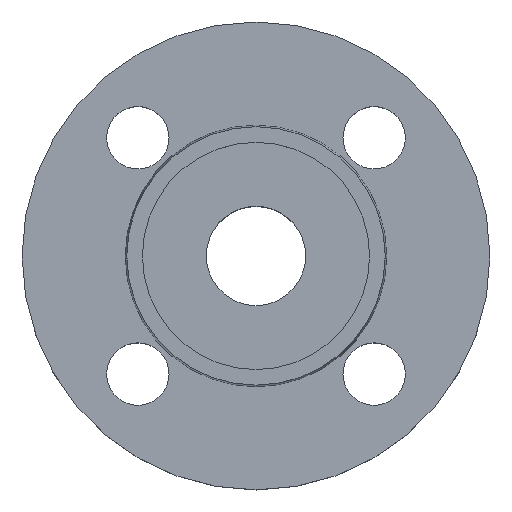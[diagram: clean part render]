
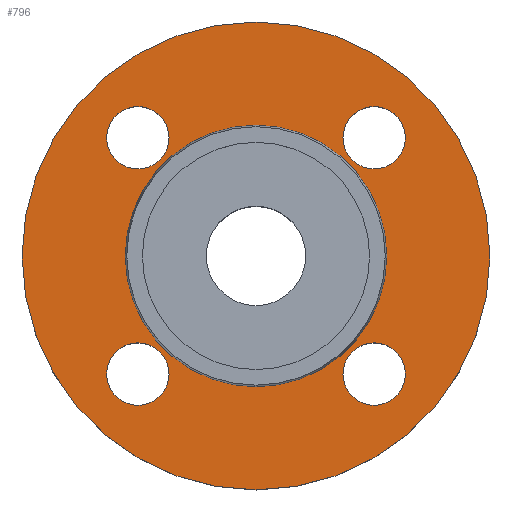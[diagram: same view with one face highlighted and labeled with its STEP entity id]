
A CAD part, top view. The second image highlights one B-rep face of the part: STEP entity #796.
In plain terms, the highlighted planar face has unit normal (0, 0, 1).
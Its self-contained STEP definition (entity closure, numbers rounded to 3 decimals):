
#11 = AXIS2_PLACEMENT_3D ( 'NONE', #826, #827, #830 ) ;
#13 = CIRCLE ( 'NONE', #14, 52.5 ) ;
#14 = AXIS2_PLACEMENT_3D ( 'NONE', #832, #833, #834 ) ;
#17 = CIRCLE ( 'NONE', #505, 52.5 ) ;
#30 = EDGE_CURVE ( 'NONE', #751, #810, #111, .T. ) ;
#45 = CIRCLE ( 'NONE', #516, 7. ) ;
#46 = CIRCLE ( 'NONE', #60, 7. ) ;
#49 = EDGE_CURVE ( 'NONE', #775, #798, #13, .T. ) ;
#55 = CARTESIAN_POINT ( 'NONE',  ( 26.517, 26.517, -2. ) ) ;
#60 = AXIS2_PLACEMENT_3D ( 'NONE', #846, #847, #848 ) ;
#90 = CIRCLE ( 'NONE', #108, 7. ) ;
#93 = AXIS2_PLACEMENT_3D ( 'NONE', #878, #879, #882 ) ;
#98 = CIRCLE ( 'NONE', #93, 7. ) ;
#101 = FACE_BOUND ( 'NONE', #471, .T. ) ;
#104 = FACE_BOUND ( 'NONE', #603, .T. ) ;
#106 = FACE_BOUND ( 'NONE', #520, .T. ) ;
#107 = FACE_BOUND ( 'NONE', #504, .T. ) ;
#108 = AXIS2_PLACEMENT_3D ( 'NONE', #875, #876, #877 ) ;
#111 = CIRCLE ( 'NONE', #11, 29.353 ) ;
#115 = EDGE_CURVE ( 'NONE', #619, #503, #46, .T. ) ;
#128 = CARTESIAN_POINT ( 'NONE',  ( 0., 0., -2. ) ) ;
#129 = DIRECTION ( 'NONE',  ( 0., 0., -1. ) ) ;
#130 = DIRECTION ( 'NONE',  ( -1., 0., 0. ) ) ;
#132 = CARTESIAN_POINT ( 'NONE',  ( -26.517, 26.517, -2. ) ) ;
#133 = DIRECTION ( 'NONE',  ( 0., 0., -1. ) ) ;
#134 = DIRECTION ( 'NONE',  ( 1., 0., 0. ) ) ;
#140 = CARTESIAN_POINT ( 'NONE',  ( 52.5, 0., -2. ) ) ;
#141 = DIRECTION ( 'NONE',  ( 1., 0., 0. ) ) ;
#143 = DIRECTION ( 'NONE',  ( 0., 0., -1. ) ) ;
#147 = CARTESIAN_POINT ( 'NONE',  ( -26.517, -26.517, -2. ) ) ;
#163 = EDGE_CURVE ( 'NONE', #819, #673, #90, .T. ) ;
#169 = EDGE_CURVE ( 'NONE', #673, #819, #98, .T. ) ;
#198 = EDGE_CURVE ( 'NONE', #810, #751, #903, .T. ) ;
#219 = EDGE_CURVE ( 'NONE', #544, #664, #252, .T. ) ;
#224 = CARTESIAN_POINT ( 'NONE',  ( 29.353, 0., -2. ) ) ;
#252 = CIRCLE ( 'NONE', #828, 7. ) ;
#301 = CARTESIAN_POINT ( 'NONE',  ( 0., 0., -2. ) ) ;
#302 = DIRECTION ( 'NONE',  ( 0., 0., -1. ) ) ;
#303 = DIRECTION ( 'NONE',  ( -1., 0., 0. ) ) ;
#320 = CARTESIAN_POINT ( 'NONE',  ( -33.517, -26.517, -2. ) ) ;
#321 = CARTESIAN_POINT ( 'NONE',  ( 19.517, -26.517, -2. ) ) ;
#323 = CARTESIAN_POINT ( 'NONE',  ( -19.517, 26.517, -2. ) ) ;
#325 = DIRECTION ( 'NONE',  ( 0., 0., -1. ) ) ;
#332 = DIRECTION ( 'NONE',  ( 1., 0., 0. ) ) ;
#335 = CARTESIAN_POINT ( 'NONE',  ( 33.517, 26.517, -2. ) ) ;
#367 = EDGE_CURVE ( 'NONE', #798, #775, #17, .T. ) ;
#370 = CARTESIAN_POINT ( 'NONE',  ( -33.517, 26.517, -2. ) ) ;
#374 = CIRCLE ( 'NONE', #896, 7. ) ;
#375 = CARTESIAN_POINT ( 'NONE',  ( -19.517, -26.517, -2. ) ) ;
#433 = CARTESIAN_POINT ( 'NONE',  ( 19.517, 26.517, -2. ) ) ;
#441 = AXIS2_PLACEMENT_3D ( 'NONE', #55, #325, #332 ) ;
#442 = AXIS2_PLACEMENT_3D ( 'NONE', #683, #677, #675 ) ;
#455 = AXIS2_PLACEMENT_3D ( 'NONE', #762, #757, #756 ) ;
#456 = EDGE_CURVE ( 'NONE', #503, #619, #888, .T. ) ;
#471 = EDGE_LOOP ( 'NONE', ( #582, #583 ) ) ;
#503 = VERTEX_POINT ( 'NONE', #433 ) ;
#504 = EDGE_LOOP ( 'NONE', ( #575, #576 ) ) ;
#505 = AXIS2_PLACEMENT_3D ( 'NONE', #301, #302, #303 ) ;
#516 = AXIS2_PLACEMENT_3D ( 'NONE', #674, #669, #667 ) ;
#520 = EDGE_LOOP ( 'NONE', ( #578, #579 ) ) ;
#540 = VERTEX_POINT ( 'NONE', #375 ) ;
#544 = VERTEX_POINT ( 'NONE', #370 ) ;
#546 = EDGE_LOOP ( 'NONE', ( #591, #592 ) ) ;
#575 = ORIENTED_EDGE ( 'NONE', *, *, #163, .T. ) ;
#576 = ORIENTED_EDGE ( 'NONE', *, *, #169, .T. ) ;
#578 = ORIENTED_EDGE ( 'NONE', *, *, #773, .T. ) ;
#579 = ORIENTED_EDGE ( 'NONE', *, *, #825, .T. ) ;
#580 = ORIENTED_EDGE ( 'NONE', *, *, #885, .T. ) ;
#581 = ORIENTED_EDGE ( 'NONE', *, *, #219, .T. ) ;
#582 = ORIENTED_EDGE ( 'NONE', *, *, #115, .T. ) ;
#583 = ORIENTED_EDGE ( 'NONE', *, *, #456, .T. ) ;
#584 = ORIENTED_EDGE ( 'NONE', *, *, #198, .T. ) ;
#585 = ORIENTED_EDGE ( 'NONE', *, *, #30, .T. ) ;
#591 = ORIENTED_EDGE ( 'NONE', *, *, #49, .F. ) ;
#592 = ORIENTED_EDGE ( 'NONE', *, *, #367, .F. ) ;
#603 = EDGE_LOOP ( 'NONE', ( #580, #581 ) ) ;
#619 = VERTEX_POINT ( 'NONE', #335 ) ;
#630 = AXIS2_PLACEMENT_3D ( 'NONE', #128, #129, #130 ) ;
#664 = VERTEX_POINT ( 'NONE', #323 ) ;
#667 = DIRECTION ( 'NONE',  ( 1., 0., 0. ) ) ;
#669 = DIRECTION ( 'NONE',  ( 0., 0., -1. ) ) ;
#673 = VERTEX_POINT ( 'NONE', #321 ) ;
#674 = CARTESIAN_POINT ( 'NONE',  ( -26.517, 26.517, -2. ) ) ;
#675 = DIRECTION ( 'NONE',  ( 1., 0., 0. ) ) ;
#677 = DIRECTION ( 'NONE',  ( 0., 0., -1. ) ) ;
#683 = CARTESIAN_POINT ( 'NONE',  ( -26.517, -26.517, -2. ) ) ;
#684 = VERTEX_POINT ( 'NONE', #320 ) ;
#695 = CARTESIAN_POINT ( 'NONE',  ( 33.517, -26.517, -2. ) ) ;
#727 = CARTESIAN_POINT ( 'NONE',  ( -29.353, 0., -2. ) ) ;
#751 = VERTEX_POINT ( 'NONE', #224 ) ;
#755 = CARTESIAN_POINT ( 'NONE',  ( -52.5, 0., -2. ) ) ;
#756 = DIRECTION ( 'NONE',  ( 1., 0., 0. ) ) ;
#757 = DIRECTION ( 'NONE',  ( 0., 0., 1. ) ) ;
#762 = CARTESIAN_POINT ( 'NONE',  ( 29.353, 0., -2. ) ) ;
#763 = PLANE ( 'NONE',  #455 ) ;
#764 = FACE_OUTER_BOUND ( 'NONE', #546, .T. ) ;
#771 = FACE_BOUND ( 'NONE', #789, .T. ) ;
#773 = EDGE_CURVE ( 'NONE', #540, #684, #374, .T. ) ;
#775 = VERTEX_POINT ( 'NONE', #140 ) ;
#789 = EDGE_LOOP ( 'NONE', ( #584, #585 ) ) ;
#796 = ADVANCED_FACE ( 'NONE', ( #107, #106, #104, #101, #771, #764 ), #763, .T. ) ;
#798 = VERTEX_POINT ( 'NONE', #755 ) ;
#810 = VERTEX_POINT ( 'NONE', #727 ) ;
#819 = VERTEX_POINT ( 'NONE', #695 ) ;
#825 = EDGE_CURVE ( 'NONE', #684, #540, #889, .T. ) ;
#826 = CARTESIAN_POINT ( 'NONE',  ( 0., 0., -2. ) ) ;
#827 = DIRECTION ( 'NONE',  ( 0., 0., -1. ) ) ;
#828 = AXIS2_PLACEMENT_3D ( 'NONE', #132, #133, #134 ) ;
#830 = DIRECTION ( 'NONE',  ( -1., 0., 0. ) ) ;
#832 = CARTESIAN_POINT ( 'NONE',  ( 0., 0., -2. ) ) ;
#833 = DIRECTION ( 'NONE',  ( 0., 0., -1. ) ) ;
#834 = DIRECTION ( 'NONE',  ( -1., 0., 0. ) ) ;
#846 = CARTESIAN_POINT ( 'NONE',  ( 26.517, 26.517, -2. ) ) ;
#847 = DIRECTION ( 'NONE',  ( 0., 0., -1. ) ) ;
#848 = DIRECTION ( 'NONE',  ( 1., 0., 0. ) ) ;
#875 = CARTESIAN_POINT ( 'NONE',  ( 26.517, -26.517, -2. ) ) ;
#876 = DIRECTION ( 'NONE',  ( 0., 0., -1. ) ) ;
#877 = DIRECTION ( 'NONE',  ( 1., 0., 0. ) ) ;
#878 = CARTESIAN_POINT ( 'NONE',  ( 26.517, -26.517, -2. ) ) ;
#879 = DIRECTION ( 'NONE',  ( 0., 0., -1. ) ) ;
#882 = DIRECTION ( 'NONE',  ( 1., 0., 0. ) ) ;
#885 = EDGE_CURVE ( 'NONE', #664, #544, #45, .T. ) ;
#888 = CIRCLE ( 'NONE', #441, 7. ) ;
#889 = CIRCLE ( 'NONE', #442, 7. ) ;
#896 = AXIS2_PLACEMENT_3D ( 'NONE', #147, #143, #141 ) ;
#903 = CIRCLE ( 'NONE', #630, 29.353 ) ;
